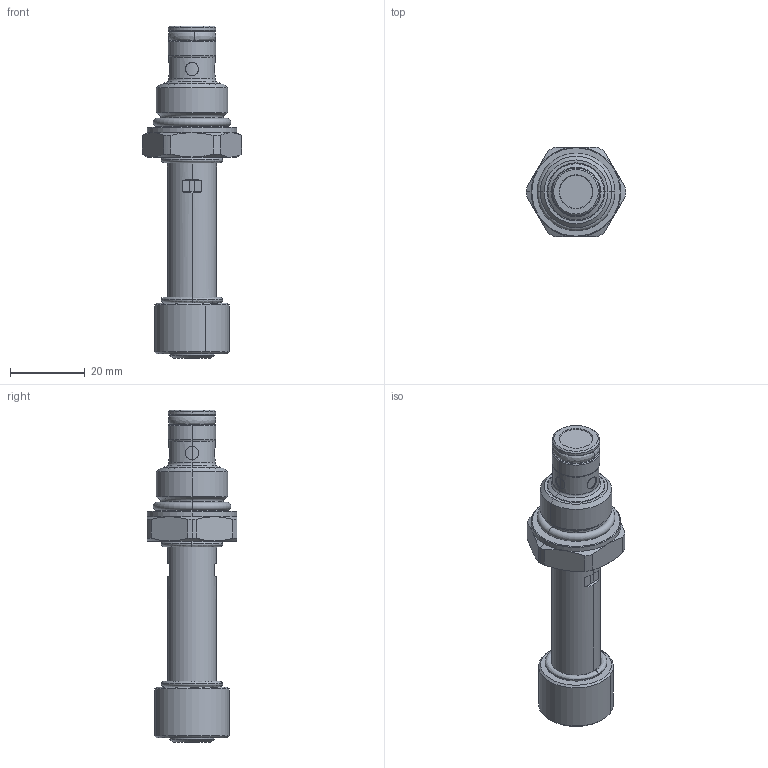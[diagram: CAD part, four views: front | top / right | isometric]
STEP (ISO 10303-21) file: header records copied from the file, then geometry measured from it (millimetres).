
FILE_DESCRIPTION (( 'STEP AP214' ), '1' );
FILE_NAME ('SDEPU08-BA.STEP', '2016-02-02T14:26:28', ( '' ), ( '' ), 'SwSTEP 2.0', 'SolidWorks 2014', '' );
FILE_SCHEMA (( 'AUTOMOTIVE_DESIGN' ));
Length unit declared in the file: millimetre
Products named in the file (5): Part6^SVD5.S08.perstep; Part6^SVD5.S08.perstep_2; SDEPU08-BA
Assembly tree (2 placements, depth 2):
  Part6^SVD5.S08.perstep
  SDEPU08-BA
    Part6^SVD5.S08.perstep
    Part6^SVD5.S08.perstep_2
  Part6^SVD5.S08.perstep_2
Bounding box: 26.5 x 24 x 88.7 mm (x, y, z)
Volume: 18697.9 mm3; surface area: 7324.1 mm2
Topology: 2 solids, 2 shells, 159 faces, 368 edges, 216 vertices
Faces by surface type: cone 54, cylinder 51, plane 22, torus 18, bspline 14
Entity records: 5882 total; most frequent: CARTESIAN_POINT 2339, ORIENTED_EDGE 732, DIRECTION 712, EDGE_CURVE 366, AXIS2_PLACEMENT_3D 299, VERTEX_POINT 216, EDGE_LOOP 168, ADVANCED_FACE 159
